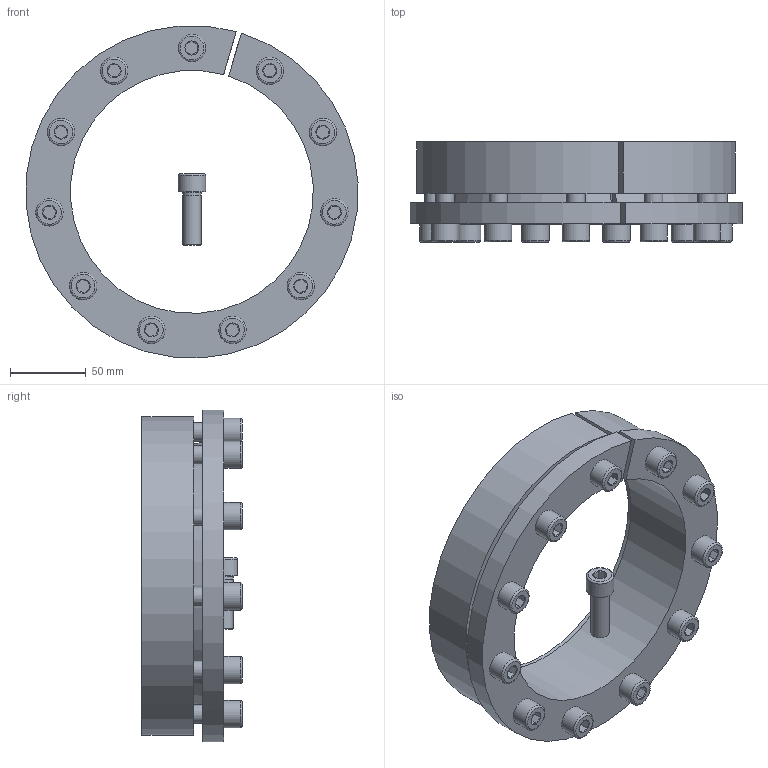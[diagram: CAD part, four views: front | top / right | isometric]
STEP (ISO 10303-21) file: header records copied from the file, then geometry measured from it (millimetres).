
FILE_DESCRIPTION( ( 'Unknown' ), '1' );
FILE_NAME( 'C:/Dokumente und Einstellungen/Sven/Desktop/homepage/cad - homepage/KBS16/KBS 16 - 160 x 210.stp', 'Unknown', ( 'Unknown' ), ( 'Unknown' ), 'XStep 1.0', 'Unknown', ' ' );
FILE_SCHEMA( ( 'automotive_design' ) );
Length unit declared in the file: millimetre
Products named in the file (3): Assem1; KBS 16 - 160 x 210; ISO EN DIN 4762 M12x35
Bounding box: 218.58 x 66 x 218.46 mm (x, y, z)
Volume: 1477155.8 mm3; surface area: 303620.8 mm2
Topology: 14 solids, 14 shells, 368 faces, 730 edges, 438 vertices
Faces by surface type: plane 158, cylinder 98, cone 88, torus 24
Full cylindrical faces by diameter (mm): 11 x12, 12 x68, 18 x12
Entity records: 1996 total; most frequent: CARTESIAN_POINT 326, DIRECTION 314, ORIENTED_EDGE 218, AXIS2_PLACEMENT_3D 143, EDGE_LOOP 136, EDGE_CURVE 109, FACE_OUTER_BOUND 87, VERTEX_POINT 87
